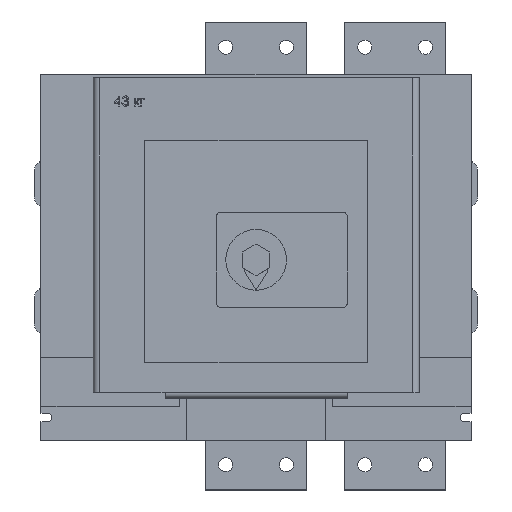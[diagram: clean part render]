
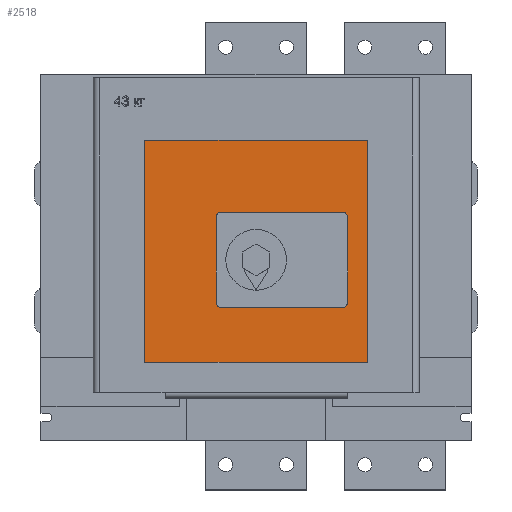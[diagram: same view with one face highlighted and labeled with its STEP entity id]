
A CAD part, top view. The second image highlights one B-rep face of the part: STEP entity #2518.
In plain terms, the highlighted planar face has unit normal (0, 0, 1).
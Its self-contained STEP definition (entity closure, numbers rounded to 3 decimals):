
#33 = VERTEX_POINT ( 'NONE', #2022 ) ;
#36 = VECTOR ( 'NONE', #7868, 1000. ) ;
#68 = DIRECTION ( 'NONE',  ( 1., 0., 0. ) ) ;
#82 = ORIENTED_EDGE ( 'NONE', *, *, #3322, .T. ) ;
#102 = ORIENTED_EDGE ( 'NONE', *, *, #4916, .T. ) ;
#133 = VECTOR ( 'NONE', #1018, 1000. ) ;
#448 = CARTESIAN_POINT ( 'NONE',  ( 322.6, 296., 266.8 ) ) ;
#533 = EDGE_CURVE ( 'NONE', #4724, #2519, #1213, .T. ) ;
#660 = ORIENTED_EDGE ( 'NONE', *, *, #5649, .T. ) ;
#897 = VERTEX_POINT ( 'NONE', #4310 ) ;
#1018 = DIRECTION ( 'NONE',  ( 0., -1., 0. ) ) ;
#1054 = DIRECTION ( 'NONE',  ( 0., 0., 1. ) ) ;
#1060 = EDGE_LOOP ( 'NONE', ( #82, #4147, #660, #102 ) ) ;
#1213 = LINE ( 'NONE', #7211, #8031 ) ;
#1282 = VERTEX_POINT ( 'NONE', #7833 ) ;
#1290 = ORIENTED_EDGE ( 'NONE', *, *, #5610, .F. ) ;
#1315 = CIRCLE ( 'NONE', #5810, 5. ) ;
#1436 = VECTOR ( 'NONE', #2112, 1000. ) ;
#1462 = DIRECTION ( 'NONE',  ( 0., 0., 1. ) ) ;
#1579 = AXIS2_PLACEMENT_3D ( 'NONE', #4911, #1054, #5544 ) ;
#1807 = DIRECTION ( 'NONE',  ( 1., 0., 0. ) ) ;
#1847 = VERTEX_POINT ( 'NONE', #2847 ) ;
#1854 = CARTESIAN_POINT ( 'NONE',  ( 303.1, 136., 266.8 ) ) ;
#1892 = DIRECTION ( 'NONE',  ( 1., 0., 0. ) ) ;
#1905 = VERTEX_POINT ( 'NONE', #4013 ) ;
#1915 = CARTESIAN_POINT ( 'NONE',  ( 322.6, 77., 266.8 ) ) ;
#2022 = CARTESIAN_POINT ( 'NONE',  ( 298.1, 131., 266.8 ) ) ;
#2025 = EDGE_CURVE ( 'NONE', #6838, #33, #7456, .T. ) ;
#2100 = CARTESIAN_POINT ( 'NONE',  ( 322.6, 77., 266.8 ) ) ;
#2112 = DIRECTION ( 'NONE',  ( -1., 0., 0. ) ) ;
#2137 = ORIENTED_EDGE ( 'NONE', *, *, #5995, .F. ) ;
#2257 = FACE_BOUND ( 'NONE', #2638, .T. ) ;
#2297 = CARTESIAN_POINT ( 'NONE',  ( 303.1, 220., 266.8 ) ) ;
#2518 = ADVANCED_FACE ( 'NONE', ( #2257, #7363 ), #5008, .T. ) ;
#2519 = VERTEX_POINT ( 'NONE', #4371 ) ;
#2567 = ORIENTED_EDGE ( 'NONE', *, *, #2025, .F. ) ;
#2580 = AXIS2_PLACEMENT_3D ( 'NONE', #8185, #5636, #1807 ) ;
#2638 = EDGE_LOOP ( 'NONE', ( #2795, #2137, #2713, #2567, #5355, #7520, #3444, #1290 ) ) ;
#2713 = ORIENTED_EDGE ( 'NONE', *, *, #6308, .F. ) ;
#2775 = EDGE_CURVE ( 'NONE', #1905, #6838, #6657, .T. ) ;
#2795 = ORIENTED_EDGE ( 'NONE', *, *, #3306, .F. ) ;
#2847 = CARTESIAN_POINT ( 'NONE',  ( 173.1, 220., 266.8 ) ) ;
#2896 = CARTESIAN_POINT ( 'NONE',  ( 102.6, 77., 266.8 ) ) ;
#3043 = CARTESIAN_POINT ( 'NONE',  ( 178.1, 131., 266.8 ) ) ;
#3291 = CARTESIAN_POINT ( 'NONE',  ( 298.1, 136., 266.8 ) ) ;
#3306 = EDGE_CURVE ( 'NONE', #6479, #897, #3683, .T. ) ;
#3322 = EDGE_CURVE ( 'NONE', #5424, #4724, #6869, .T. ) ;
#3395 = DIRECTION ( 'NONE',  ( -1., 0., 0. ) ) ;
#3444 = ORIENTED_EDGE ( 'NONE', *, *, #3853, .F. ) ;
#3473 = LINE ( 'NONE', #5118, #6661 ) ;
#3536 = EDGE_CURVE ( 'NONE', #1847, #1905, #6770, .T. ) ;
#3683 = CIRCLE ( 'NONE', #7842, 5. ) ;
#3853 = EDGE_CURVE ( 'NONE', #7735, #1847, #4786, .T. ) ;
#3935 = DIRECTION ( 'NONE',  ( 1., 0., 0. ) ) ;
#3945 = DIRECTION ( 'NONE',  ( 0., 0., 1. ) ) ;
#4013 = CARTESIAN_POINT ( 'NONE',  ( 173.1, 136., 266.8 ) ) ;
#4077 = DIRECTION ( 'NONE',  ( 0., -1., 0. ) ) ;
#4147 = ORIENTED_EDGE ( 'NONE', *, *, #533, .T. ) ;
#4310 = CARTESIAN_POINT ( 'NONE',  ( 298.1, 225., 266.8 ) ) ;
#4371 = CARTESIAN_POINT ( 'NONE',  ( 102.6, 296., 266.8 ) ) ;
#4657 = LINE ( 'NONE', #6586, #1436 ) ;
#4724 = VERTEX_POINT ( 'NONE', #448 ) ;
#4786 = CIRCLE ( 'NONE', #7084, 5. ) ;
#4817 = DIRECTION ( 'NONE',  ( 1., 0., 0. ) ) ;
#4884 = CARTESIAN_POINT ( 'NONE',  ( 173.1, 220., 266.8 ) ) ;
#4911 = CARTESIAN_POINT ( 'NONE',  ( 178.1, 136., 266.8 ) ) ;
#4916 = EDGE_CURVE ( 'NONE', #6444, #5424, #3473, .T. ) ;
#5008 = PLANE ( 'NONE',  #2580 ) ;
#5044 = VECTOR ( 'NONE', #5673, 1000. ) ;
#5118 = CARTESIAN_POINT ( 'NONE',  ( 322.6, 77., 266.8 ) ) ;
#5290 = CARTESIAN_POINT ( 'NONE',  ( 298.1, 220., 266.8 ) ) ;
#5355 = ORIENTED_EDGE ( 'NONE', *, *, #2775, .F. ) ;
#5424 = VERTEX_POINT ( 'NONE', #1915 ) ;
#5544 = DIRECTION ( 'NONE',  ( 1., 0., 0. ) ) ;
#5610 = EDGE_CURVE ( 'NONE', #897, #7735, #4657, .T. ) ;
#5636 = DIRECTION ( 'NONE',  ( 0., 0., 1. ) ) ;
#5649 = EDGE_CURVE ( 'NONE', #2519, #6444, #7637, .T. ) ;
#5673 = DIRECTION ( 'NONE',  ( 0., 1., 0. ) ) ;
#5736 = VECTOR ( 'NONE', #4817, 1000. ) ;
#5810 = AXIS2_PLACEMENT_3D ( 'NONE', #3291, #7762, #3935 ) ;
#5927 = DIRECTION ( 'NONE',  ( 1., 0., 0. ) ) ;
#5934 = VECTOR ( 'NONE', #4077, 1000. ) ;
#5995 = EDGE_CURVE ( 'NONE', #1282, #6479, #6739, .T. ) ;
#6308 = EDGE_CURVE ( 'NONE', #33, #1282, #1315, .T. ) ;
#6391 = CARTESIAN_POINT ( 'NONE',  ( 178.1, 225., 266.8 ) ) ;
#6444 = VERTEX_POINT ( 'NONE', #2896 ) ;
#6479 = VERTEX_POINT ( 'NONE', #2297 ) ;
#6586 = CARTESIAN_POINT ( 'NONE',  ( 298.1, 225., 266.8 ) ) ;
#6657 = CIRCLE ( 'NONE', #1579, 5. ) ;
#6661 = VECTOR ( 'NONE', #1892, 1000. ) ;
#6739 = LINE ( 'NONE', #1854, #5044 ) ;
#6770 = LINE ( 'NONE', #4884, #133 ) ;
#6838 = VERTEX_POINT ( 'NONE', #3043 ) ;
#6869 = LINE ( 'NONE', #2100, #36 ) ;
#7084 = AXIS2_PLACEMENT_3D ( 'NONE', #7770, #3945, #68 ) ;
#7211 = CARTESIAN_POINT ( 'NONE',  ( 322.6, 296., 266.8 ) ) ;
#7266 = CARTESIAN_POINT ( 'NONE',  ( 102.6, 77., 266.8 ) ) ;
#7363 = FACE_OUTER_BOUND ( 'NONE', #1060, .T. ) ;
#7456 = LINE ( 'NONE', #7989, #5736 ) ;
#7520 = ORIENTED_EDGE ( 'NONE', *, *, #3536, .F. ) ;
#7637 = LINE ( 'NONE', #7266, #5934 ) ;
#7735 = VERTEX_POINT ( 'NONE', #6391 ) ;
#7762 = DIRECTION ( 'NONE',  ( 0., 0., 1. ) ) ;
#7770 = CARTESIAN_POINT ( 'NONE',  ( 178.1, 220., 266.8 ) ) ;
#7833 = CARTESIAN_POINT ( 'NONE',  ( 303.1, 136., 266.8 ) ) ;
#7842 = AXIS2_PLACEMENT_3D ( 'NONE', #5290, #1462, #5927 ) ;
#7868 = DIRECTION ( 'NONE',  ( 0., 1., 0. ) ) ;
#7989 = CARTESIAN_POINT ( 'NONE',  ( 178.1, 131., 266.8 ) ) ;
#8031 = VECTOR ( 'NONE', #3395, 1000. ) ;
#8185 = CARTESIAN_POINT ( 'NONE',  ( 0., 0., 266.8 ) ) ;
